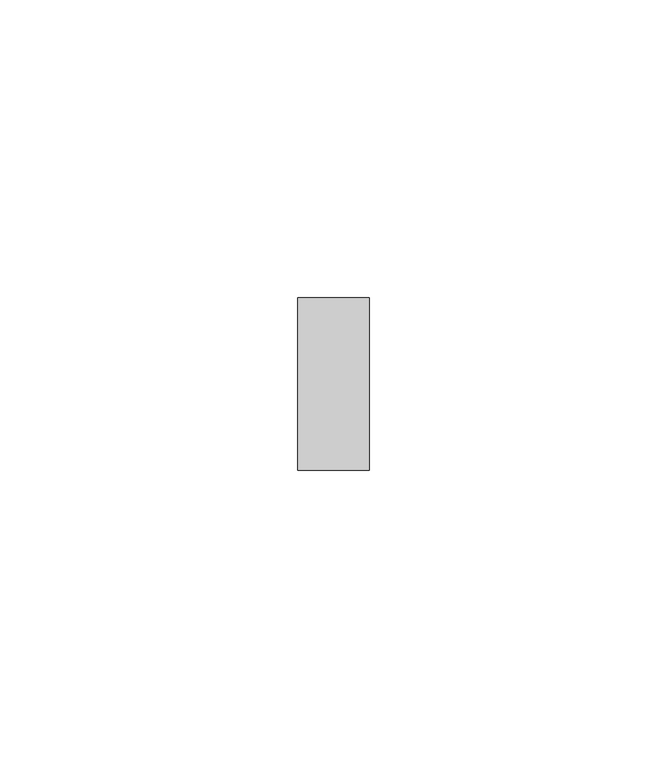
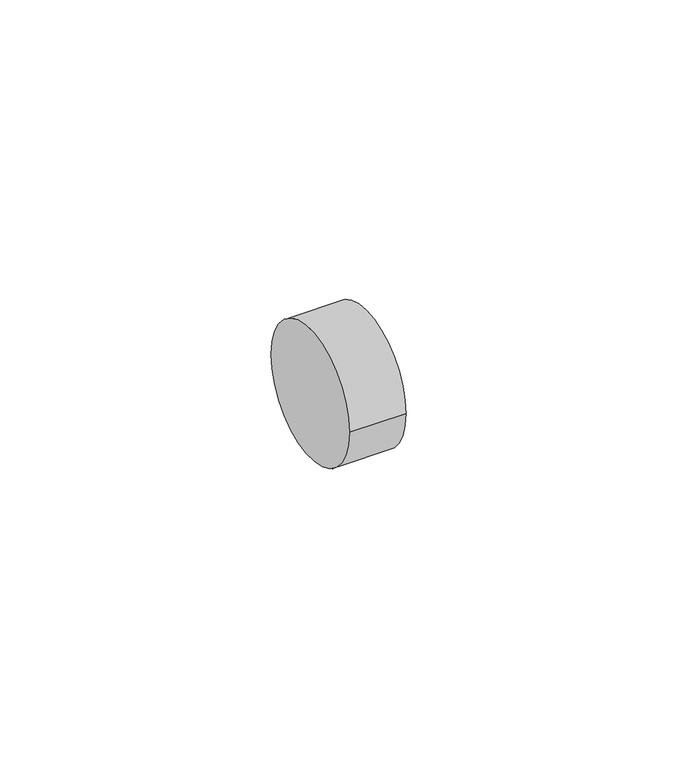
"""IFC4 building model written with IfcOpenShell, lengths in millimetres: pipe fitting geometry, AmancoWavin_Unionesdetubería_TigrisFlexTapa : Tigris K5."""

from ifc_helpers import new_model, si_unit, point, frame, origin, origin_2d, place, context, project, spatial, circle_curve, trimmed, segment, composite_curve, outline, extrude, source, transform, mapped, element, save


def pipe_fitting_03f075fd(model_context):
    return source(origin(), model_context, "Body", "SweptSolid", [
        extrude(outline(composite_curve([segment(trimmed(circle_curve(origin_2d(), 14.5), [point((-14.5, 0.0))], [point((14.5, 0.0))], False, "CARTESIAN"), True, "CONTINUOUS"), segment(trimmed(circle_curve(origin_2d(), 14.5), [point((14.5, 0.0))], [point((-14.5, 0.0))], False, "CARTESIAN"), True, "CONTINUOUS")], self_intersect=False)), frame((-12.0, 0.0, 0.0), z_axis=(1.0, 0.0, 0.0), x_axis=(0.0, 1.0, 0.0)), (0.0, 0.0, 1.0), 12.0),
    ])


if __name__ == "__main__":
    model = new_model("IFC4")
    model_context = context("Model", 3, world=origin())
    ifc_project = project(units=[si_unit("LENGTHUNIT", "METRE", prefix="MILLI")], contexts=[model_context])
    site = spatial("IfcSite", under=ifc_project)
    building = spatial("IfcBuilding", under=site)
    placement = place(None, origin())
    pipe_fitting_shape = pipe_fitting_03f075fd(model_context)
    element("IfcPipeFitting", 1, ObjectType="AmancoWavin_Unionesdetubería_TigrisFlexTapa : Tigris K5", at=placement, inside=building, context=model_context, shape_type="MappedRepresentation", body=[
        mapped(pipe_fitting_shape, transform((0.0, 0.0, 0.0), x_axis=(1.0, 0.0, 0.0), y_axis=(0.0, 1.0, 0.0), z_axis=(0.0, 0.0, 1.0))),
    ])
    save(model, "model.ifc")
